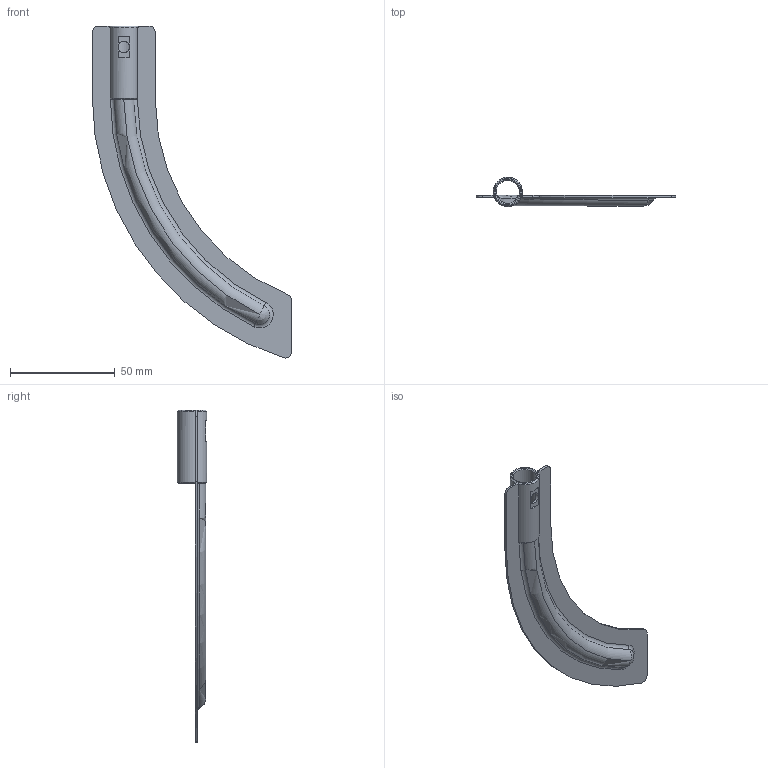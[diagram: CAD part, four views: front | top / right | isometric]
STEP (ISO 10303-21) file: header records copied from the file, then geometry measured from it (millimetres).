
FILE_DESCRIPTION(/* description */ (''),/* implementation_level */ '2;1');
FILE_NAME(/* name */ 'AC12-INOX.stp',/* time_stamp */ '2024-03-22T10:38:12+01:00',/* author */ ('filippo.guidetti'),/* organization */ (''),/* preprocessor_version */ 'ST-DEVELOPER v20',/* originating_system */ 'Autodesk Inventor 2024',/* authorisation */ '');
FILE_SCHEMA (('AUTOMOTIVE_DESIGN { 1 0 10303 214 3 1 1 }'));
Length unit declared in the file: millimetre
Products named in the file (1): AC12-INOX
Bounding box: 95 x 13.99 x 158.18 mm (x, y, z)
Volume: 7246.5 mm3; surface area: 13634 mm2
Topology: 1 solids, 1 shells, 51 faces, 150 edges, 94 vertices
Faces by surface type: plane 24, cylinder 10, torus 10, cone 5, bspline 2
Full cylindrical faces by diameter (mm): 5.5 x1, 11 x1
Entity records: 1961 total; most frequent: CARTESIAN_POINT 505, ORIENTED_EDGE 296, DIRECTION 283, EDGE_CURVE 148, AXIS2_PLACEMENT_3D 116, VERTEX_POINT 94, CIRCLE 66, EDGE_LOOP 54
